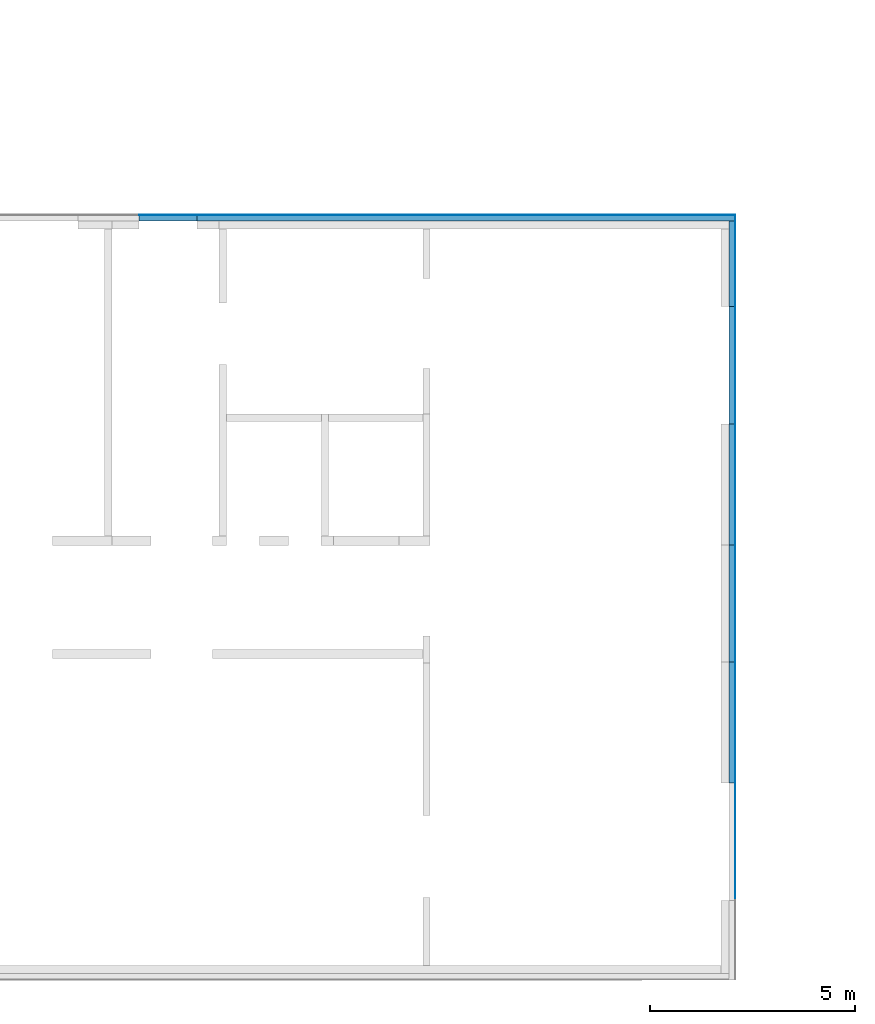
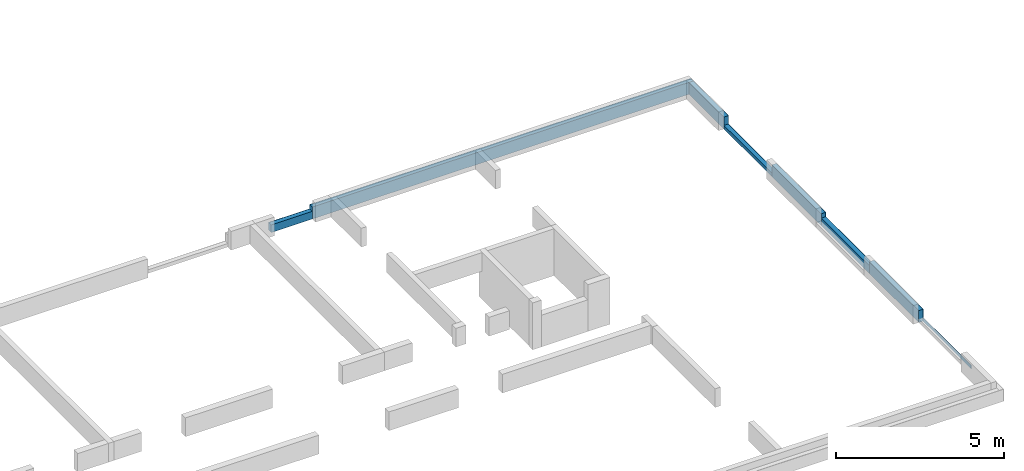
# One storey, part 7 of 7: 15 building element parts, 8 elements without a shape of their own.
"""IFC2X3 building model written with IfcOpenShell, lengths in millimetres."""

from ifc_helpers import new_model, entity, si_unit, converted_unit, derived_unit, money_unit, direction, frame, origin_with_axes, place, context, subcontext, project, spatial, faceted_brep, material, type_object, element, aggregate, save


model = new_model("IFC2X3")

# Units and contexts
model_context = context("Model", 3, precision=0.01, world=origin_with_axes(), true_north=direction((0.0, 1.0)))
body_context = subcontext(model_context, "Body", "Model", "MODEL_VIEW")
ifc_project = project(units=[si_unit("LENGTHUNIT", "METRE", prefix="MILLI"), si_unit("AREAUNIT", "SQUARE_METRE"), si_unit("VOLUMEUNIT", "CUBIC_METRE"), converted_unit("PLANEANGLEUNIT", "DEGREE", entity("IfcPlaneAngleMeasure", 0.0174532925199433), si_unit("PLANEANGLEUNIT", "RADIAN"), dimensions=[0, 0, 0, 0, 0, 0, 0]), money_unit("EUR"), converted_unit("TIMEUNIT", "Year", entity("IfcTimeMeasure", 31556926.0), si_unit("TIMEUNIT", "SECOND"), dimensions=[0, 0, 1, 0, 0, 0, 0]), si_unit("MASSUNIT", "GRAM", prefix="KILO"), si_unit("THERMODYNAMICTEMPERATUREUNIT", "DEGREE_CELSIUS"), si_unit("LUMINOUSINTENSITYUNIT", "LUMEN"), si_unit("ENERGYUNIT", "JOULE", prefix="MEGA"), derived_unit("THERMALCONDUCTANCEUNIT", [(si_unit("POWERUNIT", "WATT"), 1), (si_unit("LENGTHUNIT", "METRE"), -1), (si_unit("THERMODYNAMICTEMPERATUREUNIT", "KELVIN"), -1)]), derived_unit("SPECIFICHEATCAPACITYUNIT", [(si_unit("ENERGYUNIT", "JOULE"), 1), (si_unit("MASSUNIT", "GRAM", prefix="KILO"), -1), (si_unit("THERMODYNAMICTEMPERATUREUNIT", "KELVIN"), -1)]), derived_unit("MASSDENSITYUNIT", [(si_unit("MASSUNIT", "GRAM", prefix="KILO"), 1), (si_unit("VOLUMEUNIT", "CUBIC_METRE"), -1)])], contexts=[model_context])

# Site, building, storey
site_placement = place(None, origin_with_axes())
site = spatial("IfcSite", under=ifc_project, at=site_placement, Name="ÜBN Kinnistu Nimi -> SOLIBRI", CompositionType="ELEMENT")
building_placement = place(site_placement, origin_with_axes())
building = spatial("IfcBuilding", under=site, at=building_placement, Name="METK ARETUSKESKUS II", CompositionType="ELEMENT")
storey_placement = place(building_placement, frame((0.0, 0.0, -1610.0), z_axis=(0.0, 0.0, 1.0), x_axis=(1.0, 0.0, 0.0)))
storey = spatial("IfcBuildingStorey", under=building, at=storey_placement, Name="Vundament", CompositionType="ELEMENT", Elevation=-1610.0)

# Wall, building element parts
wall_type = type_object("IfcWallType", Name="VS-02_KURMIK 160", PredefinedType="NOTDEFINED")
wall_1_placement = place(storey_placement, frame((89759.99991283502, 27420.00000000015, 1330.0), z_axis=(0.0, 0.0, 1.0), x_axis=(0.0, 1.0, 0.0)))
wall_1 = element("IfcWall", 1, at=wall_1_placement, inside=storey, type_object=wall_type, Name="VS-02")
ifc_material_1 = material(Name="50 Soojustus: EPS")
building_element_part_1_placement = place(wall_1_placement, origin_with_axes())
building_element_part_1 = element("IfcBuildingElementPart", 2, at=building_element_part_1_placement, material=ifc_material_1, Name="50 Soojustus: EPS", context=body_context, shape_type="Brep", body=[
    faceted_brep([(2860.0, 0.0, 0.0), (2860.0, -150.0000000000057, 0.0), (0.0, -150.0000000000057, 0.0), (0.0, 0.0, 0.0), (2860.0, 0.0, 280.0), (2860.0, -150.0000000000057, 280.0), (0.0, -150.0000000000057, 280.0), (0.0, 0.0, 280.0)], [[[0, 1, 2, 3]], [[0, 4, 5, 1]], [[1, 5, 6, 2]], [[3, 2, 6, 7]], [[4, 0, 3, 7]], [[5, 4, 7, 6]]]),
])
ifc_material_2 = material(Name="92 Viim: betoonlasuur")
building_element_part_2_placement = place(wall_1_placement, origin_with_axes())
building_element_part_2 = element("IfcBuildingElementPart", 3, at=building_element_part_2_placement, material=ifc_material_2, Name="92 Viim: betoonlasuur", context=body_context, shape_type="Brep", body=[
    faceted_brep([(2860.0, -150.0000000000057, 0.0), (2860.0, -159.9999999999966, 0.0), (0.0, -159.9999999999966, 0.0), (0.0, -150.0000000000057, 0.0), (2860.0, -150.0000000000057, 280.0), (2860.0, -159.9999999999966, 280.0), (0.0, -159.9999999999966, 280.0), (0.0, -150.0000000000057, 280.0)], [[[0, 1, 2, 3]], [[0, 4, 5, 1]], [[1, 5, 6, 2]], [[3, 2, 6, 7]], [[4, 0, 3, 7]], [[5, 4, 7, 6]]]),
])
aggregate(wall_1, [building_element_part_1, building_element_part_2])

wall_2_placement = place(storey_placement, frame((89759.99991283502, 38160.00000699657, 1330.0), z_axis=(0.0, 0.0, 1.0), x_axis=(-1.0, 0.0, 0.0)))
wall_2 = element("IfcWall", 4, at=wall_2_placement, inside=storey, type_object=wall_type, Name="VS-02")
building_element_part_3_placement = place(wall_2_placement, origin_with_axes())
building_element_part_3 = element("IfcBuildingElementPart", 5, at=building_element_part_3_placement, material=ifc_material_2, Name="92 Viim: betoonlasuur", context=body_context, shape_type="Brep", body=[
    faceted_brep([(12949.99991283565, -149.9999999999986, 0.0), (12949.99991283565, -160.0000000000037, 0.0), (-159.9999999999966, -159.9999999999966, 0.0), (-159.9999999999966, -149.9999999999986, 0.0), (12949.99991283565, -149.9999999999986, 435.0004703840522), (12949.99991283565, -160.0000000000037, 435.0004703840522), (-159.9999999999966, -159.9999999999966, 435.0004703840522), (-159.9999999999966, -149.9999999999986, 435.0004703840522)], [[[0, 1, 2, 3]], [[0, 4, 5, 1]], [[1, 5, 6, 2]], [[3, 2, 6, 7]], [[4, 0, 3, 7]], [[5, 4, 7, 6]]]),
])
building_element_part_4_placement = place(wall_2_placement, origin_with_axes())
building_element_part_4 = element("IfcBuildingElementPart", 6, at=building_element_part_4_placement, material=ifc_material_1, Name="50 Soojustus: EPS", context=body_context, shape_type="Brep", body=[
    faceted_brep([(12949.99991283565, 0.0, 0.0), (12949.99991283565, -149.9999999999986, 0.0), (-150.0000000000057, -149.9999999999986, 0.0), (-150.0000000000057, 0.0, 0.0), (12949.99991283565, 0.0, 435.0004703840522), (12949.99991283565, -149.9999999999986, 435.0004703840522), (-150.0000000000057, -149.9999999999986, 435.0004703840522), (-150.0000000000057, 0.0, 435.0004703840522)], [[[0, 1, 2, 3]], [[0, 4, 5, 1]], [[1, 5, 6, 2]], [[3, 2, 6, 7]], [[4, 0, 3, 7]], [[5, 4, 7, 6]]]),
])
aggregate(wall_2, [building_element_part_3, building_element_part_4])

wall_3_placement = place(storey_placement, frame((89759.99991283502, 30280.00000000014, 1330.0), z_axis=(0.0, 0.0, 1.0), x_axis=(0.0, 1.0, 0.0)))
wall_3 = element("IfcWall", 7, at=wall_3_placement, inside=storey, type_object=wall_type, Name="VS-02")
building_element_part_5_placement = place(wall_3_placement, origin_with_axes())
building_element_part_5 = element("IfcBuildingElementPart", 8, at=building_element_part_5_placement, material=ifc_material_1, Name="50 Soojustus: EPS", context=body_context, shape_type="Brep", body=[
    faceted_brep([(2939.999999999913, 0.0, 0.0), (2939.999999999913, -150.0000000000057, 0.0), (0.0, -150.0000000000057, 0.0), (0.0, 0.0, 0.0), (2939.999999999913, 0.0, 435.0004703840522), (2939.999999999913, -150.0000000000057, 435.0004703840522), (0.0, -150.0000000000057, 435.0004703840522), (0.0, 0.0, 435.0004703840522)], [[[0, 1, 2, 3]], [[0, 4, 5, 1]], [[1, 5, 6, 2]], [[3, 2, 6, 7]], [[4, 0, 3, 7]], [[5, 4, 7, 6]]]),
])
building_element_part_6_placement = place(wall_3_placement, origin_with_axes())
building_element_part_6 = element("IfcBuildingElementPart", 9, at=building_element_part_6_placement, material=ifc_material_2, Name="92 Viim: betoonlasuur", context=body_context, shape_type="Brep", body=[
    faceted_brep([(2939.999999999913, -150.0000000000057, 0.0), (2939.999999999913, -159.9999999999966, 0.0), (0.0, -159.9999999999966, 0.0), (0.0, -150.0000000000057, 0.0), (2939.999999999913, -150.0000000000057, 435.0004703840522), (2939.999999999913, -159.9999999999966, 435.0004703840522), (0.0, -159.9999999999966, 435.0004703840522), (0.0, -150.0000000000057, 435.0004703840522)], [[[0, 1, 2, 3]], [[0, 4, 5, 1]], [[1, 5, 6, 2]], [[3, 2, 6, 7]], [[4, 0, 3, 7]], [[5, 4, 7, 6]]]),
])
aggregate(wall_3, [building_element_part_5, building_element_part_6])

wall_4_placement = place(storey_placement, frame((89759.99991283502, 36080.00000000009, 1330.0), z_axis=(0.0, 0.0, 1.0), x_axis=(0.0, 1.0, 0.0)))
wall_4 = element("IfcWall", 10, at=wall_4_placement, inside=storey, type_object=wall_type, Name="VS-02")
building_element_part_7_placement = place(wall_4_placement, origin_with_axes())
building_element_part_7 = element("IfcBuildingElementPart", 11, at=building_element_part_7_placement, material=ifc_material_1, Name="50 Soojustus: EPS", context=body_context, shape_type="Brep", body=[
    faceted_brep([(2080.000006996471, -150.0000000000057, 0.0), (0.0, -150.0000000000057, 0.0), (0.0, 0.0, 0.0), (2080.000006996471, 0.0, 0.0), (2080.000006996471, -150.0000000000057, 435.0004703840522), (0.0, -150.0000000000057, 435.0004703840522), (0.0, 0.0, 435.0004703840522), (2080.000006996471, 0.0, 435.0004703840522)], [[[0, 1, 2, 3]], [[4, 5, 1, 0]], [[2, 1, 5, 6]], [[3, 2, 6, 7]], [[3, 7, 4, 0]], [[7, 6, 5, 4]]]),
])
building_element_part_8_placement = place(wall_4_placement, origin_with_axes())
building_element_part_8 = element("IfcBuildingElementPart", 12, at=building_element_part_8_placement, material=ifc_material_2, Name="92 Viim: betoonlasuur", context=body_context, shape_type="Brep", body=[
    faceted_brep([(2230.000006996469, -159.9999999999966, 0.0), (0.0, -159.9999999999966, 0.0), (0.0, -150.0000000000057, 0.0), (2230.000006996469, -150.0000000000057, 0.0), (2230.000006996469, -159.9999999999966, 435.0004703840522), (0.0, -159.9999999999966, 435.0004703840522), (0.0, -150.0000000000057, 435.0004703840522), (2230.000006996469, -150.0000000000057, 435.0004703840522)], [[[0, 1, 2, 3]], [[4, 5, 1, 0]], [[2, 1, 5, 6]], [[3, 2, 6, 7]], [[3, 7, 4, 0]], [[7, 6, 5, 4]]]),
])
aggregate(wall_4, [building_element_part_7, building_element_part_8])

wall_5_placement = place(storey_placement, frame((76809.99999999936, 38160.00000699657, 1330.0), z_axis=(0.0, 0.0, 1.0), x_axis=(-1.0, 0.0, 0.0)))
wall_5 = element("IfcWall", 13, at=wall_5_placement, inside=storey, type_object=wall_type, Name="VS-02")
building_element_part_9_placement = place(wall_5_placement, origin_with_axes())
building_element_part_9 = element("IfcBuildingElementPart", 14, at=building_element_part_9_placement, material=ifc_material_1, Name="50 Soojustus: EPS", context=body_context, shape_type="Brep", body=[
    faceted_brep([(1409.999999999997, 0.0, 0.0), (1409.999999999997, -149.9999999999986, 0.0), (0.0, -149.9999999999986, 0.0), (0.0, 0.0, 0.0), (1409.999999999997, 0.0, 280.0), (1409.999999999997, -149.9999999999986, 280.0), (0.0, -149.9999999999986, 280.0), (0.0, 0.0, 280.0)], [[[0, 1, 2, 3]], [[0, 4, 5, 1]], [[1, 5, 6, 2]], [[3, 2, 6, 7]], [[4, 0, 3, 7]], [[5, 4, 7, 6]]]),
])
building_element_part_10_placement = place(wall_5_placement, origin_with_axes())
building_element_part_10 = element("IfcBuildingElementPart", 15, at=building_element_part_10_placement, material=ifc_material_2, Name="92 Viim: betoonlasuur", context=body_context, shape_type="Brep", body=[
    faceted_brep([(1409.999999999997, -149.9999999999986, 0.0), (1409.999999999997, -159.9999999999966, 0.0), (0.0, -159.9999999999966, 0.0), (0.0, -149.9999999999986, 0.0), (1409.999999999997, -149.9999999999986, 280.0), (1409.999999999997, -159.9999999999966, 280.0), (0.0, -159.9999999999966, 280.0), (0.0, -149.9999999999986, 280.0)], [[[0, 1, 2, 3]], [[0, 4, 5, 1]], [[1, 5, 6, 2]], [[3, 2, 6, 7]], [[4, 0, 3, 7]], [[5, 4, 7, 6]]]),
])
aggregate(wall_5, [building_element_part_9, building_element_part_10])

wall_6_placement = place(storey_placement, frame((89759.99991283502, 33220.00000000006, 1330.0), z_axis=(0.0, 0.0, 1.0), x_axis=(0.0, 1.0, 0.0)))
wall_6 = element("IfcWall", 16, at=wall_6_placement, inside=storey, type_object=wall_type, Name="VS-02")
building_element_part_11_placement = place(wall_6_placement, origin_with_axes())
building_element_part_11 = element("IfcBuildingElementPart", 17, at=building_element_part_11_placement, material=ifc_material_2, Name="92 Viim: betoonlasuur", context=body_context, shape_type="Brep", body=[
    faceted_brep([(2860.000000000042, -150.0000000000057, 0.0), (2860.000000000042, -159.9999999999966, 0.0), (0.0, -159.9999999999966, 0.0), (0.0, -150.0000000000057, 0.0), (2860.000000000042, -150.0000000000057, 129.9999999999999), (2860.000000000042, -159.9999999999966, 129.9999999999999), (0.0, -159.9999999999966, 129.9999999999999), (0.0, -150.0000000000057, 129.9999999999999)], [[[0, 1, 2, 3]], [[0, 4, 5, 1]], [[1, 5, 6, 2]], [[3, 2, 6, 7]], [[4, 0, 3, 7]], [[5, 4, 7, 6]]]),
])
building_element_part_12_placement = place(wall_6_placement, origin_with_axes())
building_element_part_12 = element("IfcBuildingElementPart", 18, at=building_element_part_12_placement, material=ifc_material_1, Name="50 Soojustus: EPS", context=body_context, shape_type="Brep", body=[
    faceted_brep([(2860.000000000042, 0.0, 0.0), (2860.000000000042, -150.0000000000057, 0.0), (0.0, -150.0000000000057, 0.0), (0.0, 0.0, 0.0), (2860.000000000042, 0.0, 129.9999999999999), (2860.000000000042, -150.0000000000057, 129.9999999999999), (0.0, -150.0000000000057, 129.9999999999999), (0.0, 0.0, 129.9999999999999)], [[[0, 1, 2, 3]], [[0, 4, 5, 1]], [[1, 5, 6, 2]], [[3, 2, 6, 7]], [[4, 0, 3, 7]], [[5, 4, 7, 6]]]),
])
aggregate(wall_6, [building_element_part_11, building_element_part_12])

# Wall, building element part
wall_7_placement = place(storey_placement, frame((89759.99991283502, 21620.00000000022, 1330.0), z_axis=(0.0, 0.0, 1.0), x_axis=(0.0, 1.0, 0.0)))
wall_7 = element("IfcWall", 19, at=wall_7_placement, inside=storey, type_object=wall_type, Name="VS-02")
building_element_part_13_placement = place(wall_7_placement, origin_with_axes())
building_element_part_13 = element("IfcBuildingElementPart", 20, at=building_element_part_13_placement, material=ifc_material_2, Name="92 Viim: betoonlasuur", context=body_context, shape_type="Brep", body=[
    faceted_brep([(2860.000000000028, -150.0000000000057, 0.0), (2860.000000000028, -159.9999999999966, 0.0), (0.0, -159.9999999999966, 0.0), (0.0, -150.0000000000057, 0.0), (2860.000000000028, -150.0000000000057, 129.9999999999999), (2860.000000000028, -159.9999999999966, 129.9999999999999), (0.0, -159.9999999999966, 129.9999999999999), (0.0, -150.0000000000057, 129.9999999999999)], [[[0, 1, 2, 3]], [[0, 4, 5, 1]], [[1, 5, 6, 2]], [[3, 2, 6, 7]], [[4, 0, 3, 7]], [[5, 4, 7, 6]]]),
])
aggregate(wall_7, [building_element_part_13])

# Wall, building element parts
wall_8_placement = place(storey_placement, frame((89759.99991283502, 24480.00000000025, 1330.0), z_axis=(0.0, 0.0, 1.0), x_axis=(0.0, 1.0, 0.0)))
wall_8 = element("IfcWall", 21, at=wall_8_placement, inside=storey, type_object=wall_type, Name="VS-02")
building_element_part_14_placement = place(wall_8_placement, origin_with_axes())
building_element_part_14 = element("IfcBuildingElementPart", 22, at=building_element_part_14_placement, material=ifc_material_1, Name="50 Soojustus: EPS", context=body_context, shape_type="Brep", body=[
    faceted_brep([(2939.999999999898, 0.0, 0.0), (2939.999999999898, -150.0000000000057, 0.0), (0.0, -150.0000000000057, 0.0), (0.0, 0.0, 0.0), (2939.999999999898, 0.0, 435.0004703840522), (2939.999999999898, -150.0000000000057, 435.0004703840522), (0.0, -150.0000000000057, 435.0004703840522), (0.0, 0.0, 435.0004703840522)], [[[0, 1, 2, 3]], [[0, 4, 5, 1]], [[1, 5, 6, 2]], [[3, 2, 6, 7]], [[4, 0, 3, 7]], [[5, 4, 7, 6]]]),
])
building_element_part_15_placement = place(wall_8_placement, origin_with_axes())
building_element_part_15 = element("IfcBuildingElementPart", 23, at=building_element_part_15_placement, material=ifc_material_2, Name="92 Viim: betoonlasuur", context=body_context, shape_type="Brep", body=[
    faceted_brep([(2939.999999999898, -150.0000000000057, 0.0), (2939.999999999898, -159.9999999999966, 0.0), (0.0, -159.9999999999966, 0.0), (0.0, -150.0000000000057, 0.0), (2939.999999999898, -150.0000000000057, 435.0004703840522), (2939.999999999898, -159.9999999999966, 435.0004703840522), (0.0, -159.9999999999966, 435.0004703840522), (0.0, -150.0000000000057, 435.0004703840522)], [[[0, 1, 2, 3]], [[0, 4, 5, 1]], [[1, 5, 6, 2]], [[3, 2, 6, 7]], [[4, 0, 3, 7]], [[5, 4, 7, 6]]]),
])
aggregate(wall_8, [building_element_part_14, building_element_part_15])

save(model, "model.ifc")
